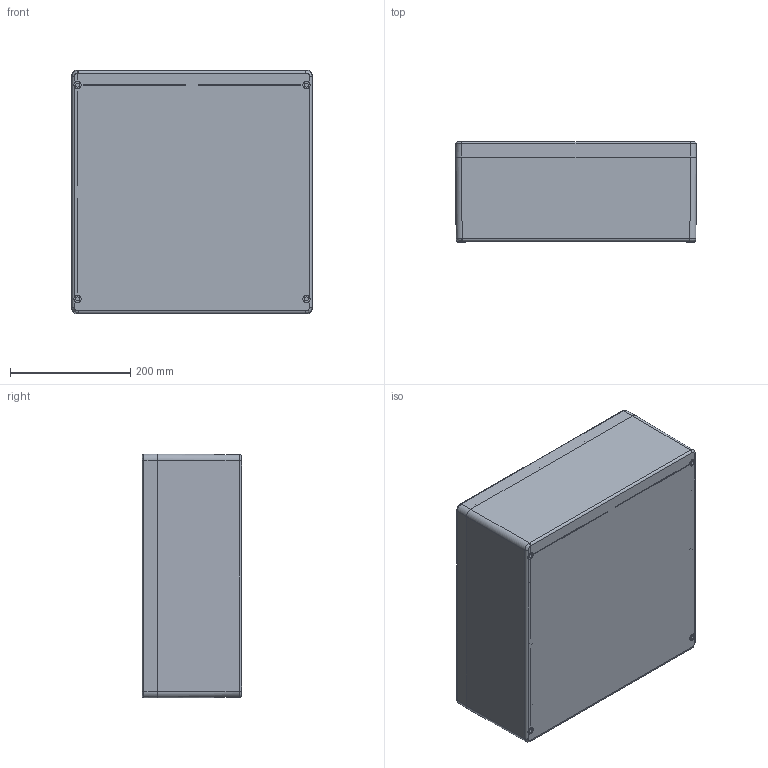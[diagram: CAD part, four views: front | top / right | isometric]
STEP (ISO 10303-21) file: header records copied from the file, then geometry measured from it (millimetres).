
FILE_DESCRIPTION((''),'2;1');
FILE_NAME('5460000000_ASM','2023-01-11T10:49:06',('silke.otte'),(''),'CREO PARAMETRIC BY PTC INC, 2022124','CREO PARAMETRIC BY PTC INC, 2022124','');
FILE_SCHEMA(('AUTOMOTIVE_DESIGN { 1 0 10303 214 1 1 1 1 }'));
Length unit declared in the file: millimetre
Products named in the file (9): 9341013000; 9502218000; 9502217000; 9341013000_ASM; 9342012000; CP-DICHTUNG_45; 9262006000; 9261027000; 5460000000_ASM
Assembly tree (22 placements, depth 3):
  5460000000_ASM
    9341013000_ASM
      9341013000
      9502218000  x6
      9502217000  x4
    9342012000
    CP-DICHTUNG_45
    9262006000  x4
    9261027000  x4
Bounding box: 400 x 165.5 x 405 mm (x, y, z)
Volume: 3482167.1 mm3; surface area: 1194557.3 mm2
Topology: 21 solids, 35 shells, 2243 faces, 6024 edges, 3872 vertices
Faces by surface type: plane 1602, cone 384, cylinder 188, bspline 49, torus 20
Entity records: 39457 total; most frequent: CARTESIAN_POINT 9699, DIRECTION 4097, ORIENTED_EDGE 3900, PRESENTATION_STYLE_ASSIGNMENT 2143, STYLED_ITEM 2132, CURVE_STYLE 2123, EDGE_CURVE 1956, AXIS2_PLACEMENT_3D 1480
